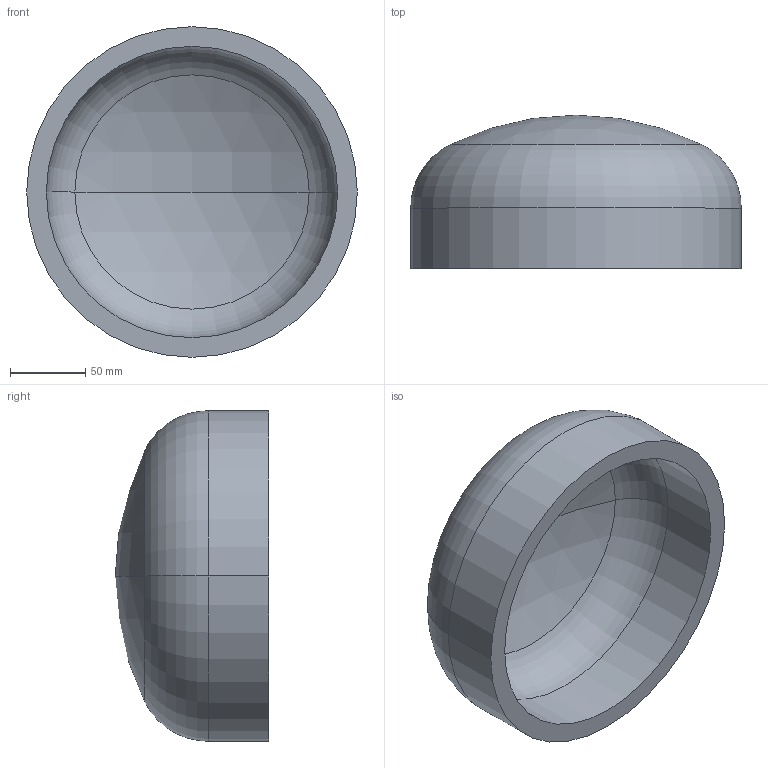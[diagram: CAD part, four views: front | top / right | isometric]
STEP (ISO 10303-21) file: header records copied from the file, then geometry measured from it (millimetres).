
FILE_DESCRIPTION (( 'STEP AP203' ), '1' );
FILE_NAME ('DIN 28013 Korbbogenform_-_Boden DIN 28013 - 219,1 x 40 - I - s=13.step', '2016-07-01T07:42:29', ( '' ), ( '' ), 'SwSTEP 2.0', 'SolidWorks 2013', '' );
FILE_SCHEMA (( 'CONFIG_CONTROL_DESIGN' ));
Length unit declared in the file: millimetre
Products named in the file (1): DIN 28013 Korbbogenform_-_Boden DIN 28013 - 219,1 x 40 - I - s=13
Bounding box: 219.1 x 101.63 x 219.1 mm (x, y, z)
Volume: 967095.8 mm3; surface area: 157555.2 mm2
Topology: 1 solids, 1 shells, 13 faces, 24 edges, 14 vertices
Faces by surface type: torus 4, cylinder 4, sphere 4, plane 1
Entity records: 407 total; most frequent: DIRECTION 72, CARTESIAN_POINT 52, ORIENTED_EDGE 48, AXIS2_PLACEMENT_3D 34, EDGE_CURVE 24, CIRCLE 20, EDGE_LOOP 14, VERTEX_POINT 14
